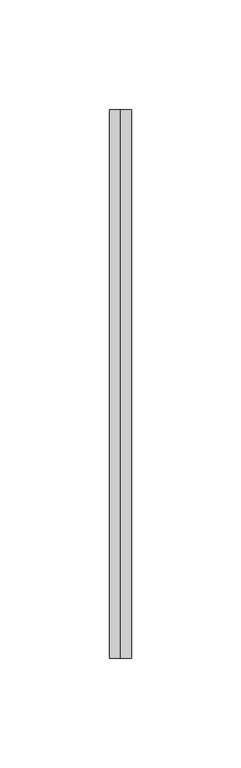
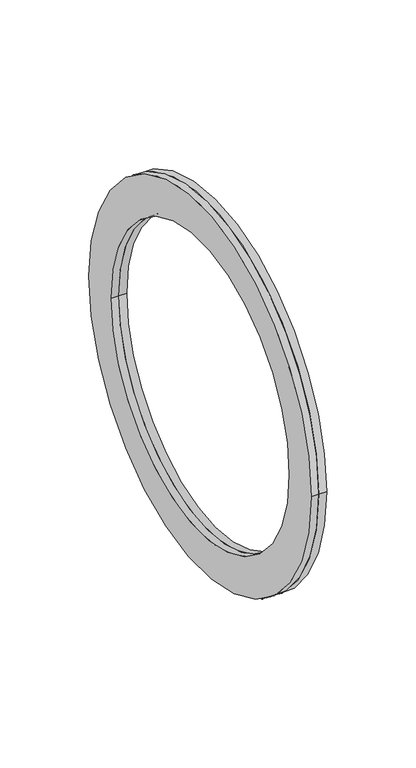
"""IFC4 building model written with IfcOpenShell, lengths in millimetres: duct fitting geometry, BL_ФланецВоздуховдов-Двойной_Круглый_БезКоннекторов : BL_ФланецВоздуховдов-Двойной_Круглый_БезКоннекторов."""

from ifc_helpers import new_model, si_unit, point, frame, frame_2d, origin, place, context, project, spatial, circle_curve, trimmed, segment, composite_curve, outline, extrude, source, transform, mapped, element, save


def duct_fitting_a26a523e(model_context):
    return source(origin(), model_context, "Body", "SweptSolid", [
        extrude(outline(composite_curve([segment(trimmed(circle_curve(frame_2d((-45.6742229, 0.0)), 125.0), [point((-170.6742229, 0.0))], [point((79.3257771, 0.0))], False, "CARTESIAN"), True, "CONTINUOUS"), segment(trimmed(circle_curve(frame_2d((-45.6742229, 0.0)), 125.0), [point((79.3257771, 0.0))], [point((-170.6742229, 0.0))], False, "CARTESIAN"), True, "CONTINUOUS")], self_intersect=False), holes=[composite_curve([segment(trimmed(circle_curve(frame_2d((-45.6742229, 0.0)), 100.0), [point((-145.6742229, 0.0))], [point((54.3257771, 0.0))], True, "CARTESIAN"), True, "CONTINUOUS"), segment(trimmed(circle_curve(frame_2d((-45.6742229, 0.0)), 100.0), [point((54.3257771, 0.0))], [point((-145.6742229, 0.0))], True, "CARTESIAN"), True, "CONTINUOUS")], self_intersect=False)]), frame((0.0, 0.0, 0.0), z_axis=(1.0, 0.0, 0.0), x_axis=(0.0, 1.0, 0.0)), (0.0, 0.0, 1.0), 5.0),
        extrude(outline(composite_curve([segment(trimmed(circle_curve(frame_2d((-45.6742229, 0.0)), 125.0), [point((-170.6742229, 0.0))], [point((79.3257771, 0.0))], False, "CARTESIAN"), True, "CONTINUOUS"), segment(trimmed(circle_curve(frame_2d((-45.6742229, 0.0)), 125.0), [point((79.3257771, 0.0))], [point((-170.6742229, 0.0))], False, "CARTESIAN"), True, "CONTINUOUS")], self_intersect=False), holes=[composite_curve([segment(trimmed(circle_curve(frame_2d((-45.6742229, 0.0)), 100.0), [point((-145.6742229, 0.0))], [point((54.3257771, 0.0))], True, "CARTESIAN"), True, "CONTINUOUS"), segment(trimmed(circle_curve(frame_2d((-45.6742229, 0.0)), 100.0), [point((54.3257771, 0.0))], [point((-145.6742229, 0.0))], True, "CARTESIAN"), True, "CONTINUOUS")], self_intersect=False)]), frame((-5.0, 0.0, 0.0), z_axis=(1.0, 0.0, 0.0), x_axis=(0.0, 1.0, 0.0)), (0.0, 0.0, 1.0), 5.0),
    ])


if __name__ == "__main__":
    model = new_model("IFC4")
    model_context = context("Model", 3, world=origin())
    ifc_project = project(units=[si_unit("LENGTHUNIT", "METRE", prefix="MILLI")], contexts=[model_context])
    site = spatial("IfcSite", under=ifc_project)
    building = spatial("IfcBuilding", under=site)
    placement = place(None, origin())
    duct_fitting_shape = duct_fitting_a26a523e(model_context)
    element("IfcDuctFitting", 1, ObjectType="BL_ФланецВоздуховдов-Двойной_Круглый_БезКоннекторов : BL_ФланецВоздуховдов-Двойной_Круглый_БезКоннекторов", at=placement, inside=building, context=model_context, shape_type="MappedRepresentation", body=[
        mapped(duct_fitting_shape, transform((0.0, 0.0, 0.0), x_axis=(1.0, 0.0, 0.0), y_axis=(0.0, 1.0, 0.0), z_axis=(0.0, 0.0, 1.0))),
    ])
    save(model, "model.ifc")
